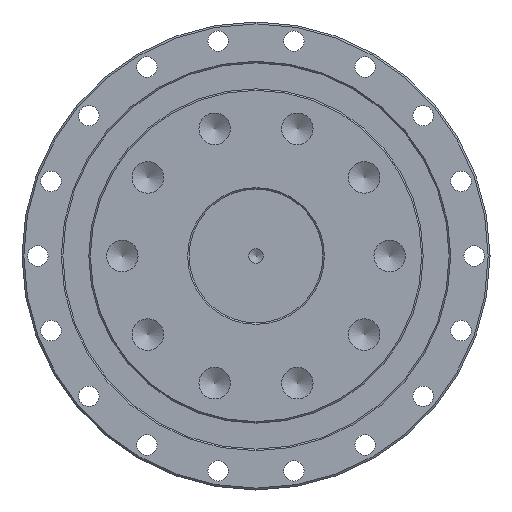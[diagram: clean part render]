
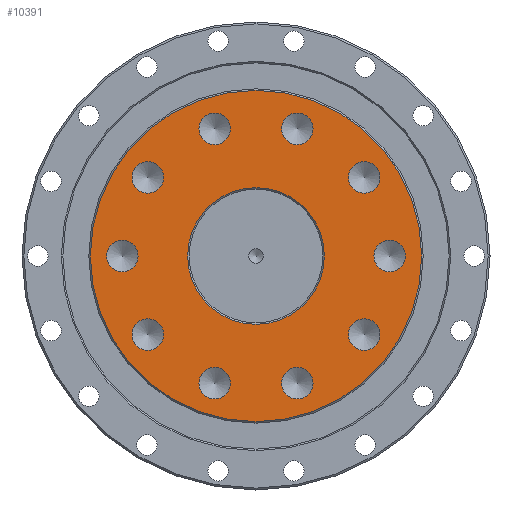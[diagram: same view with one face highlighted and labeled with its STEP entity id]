
A CAD part, left-side view. The second image highlights one B-rep face of the part: STEP entity #10391.
In plain terms, the highlighted planar face has unit normal (-1, 0, 0).
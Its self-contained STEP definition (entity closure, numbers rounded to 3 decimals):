
#67 = DIRECTION ( 'NONE',  ( 0., 0., -1. ) ) ;
#98 = DIRECTION ( 'NONE',  ( 0., 0., -1. ) ) ;
#206 = DIRECTION ( 'NONE',  ( -1., 0., 0. ) ) ;
#218 = CARTESIAN_POINT ( 'NONE',  ( 0., 11.125, 29.988 ) ) ;
#241 = CARTESIAN_POINT ( 'NONE',  ( 0., 0., 0. ) ) ;
#497 = CARTESIAN_POINT ( 'NONE',  ( 0., 0., -18.4 ) ) ;
#602 = DIRECTION ( 'NONE',  ( 0., 0., -1. ) ) ;
#603 = DIRECTION ( 'NONE',  ( -1., 0., 0. ) ) ;
#642 = CARTESIAN_POINT ( 'NONE',  ( 0., -29.125, 16.91 ) ) ;
#788 = EDGE_CURVE ( 'NONE', #10777, #10777, #11784, .T. ) ;
#984 = AXIS2_PLACEMENT_3D ( 'NONE', #1063, #8065, #2088 ) ;
#1063 = CARTESIAN_POINT ( 'NONE',  ( 0., -11.125, 34.238 ) ) ;
#1134 = ORIENTED_EDGE ( 'NONE', *, *, #10876, .F. ) ;
#1172 = AXIS2_PLACEMENT_3D ( 'NONE', #12642, #6625, #602 ) ;
#1328 = EDGE_LOOP ( 'NONE', ( #5053 ) ) ;
#1754 = CARTESIAN_POINT ( 'NONE',  ( 0., 36., 0. ) ) ;
#1770 = CARTESIAN_POINT ( 'NONE',  ( 0., 11.125, 34.238 ) ) ;
#1995 = CIRCLE ( 'NONE', #1172, 4.25 ) ;
#2009 = FACE_BOUND ( 'NONE', #10632, .T. ) ;
#2064 = ORIENTED_EDGE ( 'NONE', *, *, #11243, .F. ) ;
#2088 = DIRECTION ( 'NONE',  ( 0., 0., -1. ) ) ;
#2295 = FACE_BOUND ( 'NONE', #9712, .T. ) ;
#2579 = AXIS2_PLACEMENT_3D ( 'NONE', #3951, #10989, #4969 ) ;
#2580 = CARTESIAN_POINT ( 'NONE',  ( 0., 29.125, -25.41 ) ) ;
#2628 = FACE_BOUND ( 'NONE', #9121, .T. ) ;
#2754 = DIRECTION ( 'NONE',  ( 0., 0., -1. ) ) ;
#2770 = DIRECTION ( 'NONE',  ( 0., 0., -1. ) ) ;
#2904 = EDGE_CURVE ( 'NONE', #5272, #5272, #1995, .T. ) ;
#2971 = EDGE_CURVE ( 'NONE', #10272, #10272, #11915, .T. ) ;
#3467 = CARTESIAN_POINT ( 'NONE',  ( 0., 29.125, -21.16 ) ) ;
#3505 = VERTEX_POINT ( 'NONE', #642 ) ;
#3545 = ORIENTED_EDGE ( 'NONE', *, *, #2904, .F. ) ;
#3559 = EDGE_LOOP ( 'NONE', ( #4565 ) ) ;
#3604 = CIRCLE ( 'NONE', #984, 4.25 ) ;
#3701 = EDGE_CURVE ( 'NONE', #8370, #8370, #10562, .T. ) ;
#3951 = CARTESIAN_POINT ( 'NONE',  ( 0., 29.125, 21.16 ) ) ;
#4153 = EDGE_LOOP ( 'NONE', ( #1134 ) ) ;
#4321 = FACE_BOUND ( 'NONE', #8750, .T. ) ;
#4423 = CARTESIAN_POINT ( 'NONE',  ( 0., -11.125, 29.988 ) ) ;
#4453 = DIRECTION ( 'NONE',  ( 0., 0., -1. ) ) ;
#4467 = AXIS2_PLACEMENT_3D ( 'NONE', #1754, #8731, #2754 ) ;
#4565 = ORIENTED_EDGE ( 'NONE', *, *, #6891, .F. ) ;
#4570 = CARTESIAN_POINT ( 'NONE',  ( 0., 0., 0. ) ) ;
#4641 = CARTESIAN_POINT ( 'NONE',  ( 0., 29.125, 16.91 ) ) ;
#4665 = FACE_BOUND ( 'NONE', #3559, .T. ) ;
#4812 = AXIS2_PLACEMENT_3D ( 'NONE', #12133, #6107, #98 ) ;
#4969 = DIRECTION ( 'NONE',  ( 0., 0., -1. ) ) ;
#4989 = FACE_BOUND ( 'NONE', #7081, .T. ) ;
#5053 = ORIENTED_EDGE ( 'NONE', *, *, #11475, .F. ) ;
#5163 = DIRECTION ( 'NONE',  ( -1., 0., 0. ) ) ;
#5228 = ORIENTED_EDGE ( 'NONE', *, *, #7918, .F. ) ;
#5272 = VERTEX_POINT ( 'NONE', #5475 ) ;
#5327 = CIRCLE ( 'NONE', #5341, 4.25 ) ;
#5341 = AXIS2_PLACEMENT_3D ( 'NONE', #11176, #5163, #12198 ) ;
#5475 = CARTESIAN_POINT ( 'NONE',  ( 0., -11.125, -38.488 ) ) ;
#5587 = DIRECTION ( 'NONE',  ( 0., 0., -1. ) ) ;
#5732 = DIRECTION ( 'NONE',  ( 1., 0., 0. ) ) ;
#5913 = AXIS2_PLACEMENT_3D ( 'NONE', #11731, #5732, #12788 ) ;
#5968 = ORIENTED_EDGE ( 'NONE', *, *, #2971, .T. ) ;
#6065 = DIRECTION ( 'NONE',  ( -1., 0., 0. ) ) ;
#6107 = DIRECTION ( 'NONE',  ( -1., 0., 0. ) ) ;
#6509 = VERTEX_POINT ( 'NONE', #10608 ) ;
#6625 = DIRECTION ( 'NONE',  ( -1., 0., 0. ) ) ;
#6626 = CARTESIAN_POINT ( 'NONE',  ( 0., -29.125, 21.16 ) ) ;
#6891 = EDGE_CURVE ( 'NONE', #11697, #11697, #13000, .T. ) ;
#6940 = AXIS2_PLACEMENT_3D ( 'NONE', #3467, #10463, #4453 ) ;
#7033 = FACE_OUTER_BOUND ( 'NONE', #10583, .T. ) ;
#7081 = EDGE_LOOP ( 'NONE', ( #8256 ) ) ;
#7117 = EDGE_CURVE ( 'NONE', #8351, #8351, #10420, .T. ) ;
#7144 = VERTEX_POINT ( 'NONE', #9281 ) ;
#7230 = ORIENTED_EDGE ( 'NONE', *, *, #788, .T. ) ;
#7237 = DIRECTION ( 'NONE',  ( 0., 0., -1. ) ) ;
#7282 = EDGE_LOOP ( 'NONE', ( #3545 ) ) ;
#7325 = FACE_BOUND ( 'NONE', #1328, .T. ) ;
#7560 = CIRCLE ( 'NONE', #4467, 4.25 ) ;
#7597 = DIRECTION ( 'NONE',  ( 0., 0., -1. ) ) ;
#7635 = FACE_BOUND ( 'NONE', #4153, .T. ) ;
#7688 = CIRCLE ( 'NONE', #11153, 4.25 ) ;
#7918 = EDGE_CURVE ( 'NONE', #7144, #7144, #7560, .T. ) ;
#8065 = DIRECTION ( 'NONE',  ( -1., 0., 0. ) ) ;
#8194 = VERTEX_POINT ( 'NONE', #4641 ) ;
#8256 = ORIENTED_EDGE ( 'NONE', *, *, #7117, .F. ) ;
#8293 = CARTESIAN_POINT ( 'NONE',  ( 0., 0., -44.6 ) ) ;
#8351 = VERTEX_POINT ( 'NONE', #12276 ) ;
#8370 = VERTEX_POINT ( 'NONE', #2580 ) ;
#8573 = EDGE_LOOP ( 'NONE', ( #8595 ) ) ;
#8595 = ORIENTED_EDGE ( 'NONE', *, *, #10940, .F. ) ;
#8731 = DIRECTION ( 'NONE',  ( -1., 0., 0. ) ) ;
#8750 = EDGE_LOOP ( 'NONE', ( #5968 ) ) ;
#8761 = DIRECTION ( 'NONE',  ( -1., 0., 0. ) ) ;
#8763 = AXIS2_PLACEMENT_3D ( 'NONE', #241, #206, #7237 ) ;
#9038 = EDGE_CURVE ( 'NONE', #12317, #12317, #3604, .T. ) ;
#9121 = EDGE_LOOP ( 'NONE', ( #9837 ) ) ;
#9281 = CARTESIAN_POINT ( 'NONE',  ( 0., 36., -4.25 ) ) ;
#9601 = CARTESIAN_POINT ( 'NONE',  ( 0., -29.125, -25.41 ) ) ;
#9672 = FACE_BOUND ( 'NONE', #8573, .T. ) ;
#9712 = EDGE_LOOP ( 'NONE', ( #5228 ) ) ;
#9837 = ORIENTED_EDGE ( 'NONE', *, *, #3701, .F. ) ;
#9991 = FACE_BOUND ( 'NONE', #7282, .T. ) ;
#10272 = VERTEX_POINT ( 'NONE', #497 ) ;
#10342 = EDGE_LOOP ( 'NONE', ( #2064 ) ) ;
#10391 = ADVANCED_FACE ( 'NONE', ( #7635, #9991, #4989, #2628, #2295, #7325, #4665, #2009, #12367, #9672, #7033, #4321 ), #12259, .T. ) ;
#10420 = CIRCLE ( 'NONE', #4812, 4.25 ) ;
#10463 = DIRECTION ( 'NONE',  ( -1., 0., 0. ) ) ;
#10562 = CIRCLE ( 'NONE', #6940, 4.25 ) ;
#10583 = EDGE_LOOP ( 'NONE', ( #7230 ) ) ;
#10608 = CARTESIAN_POINT ( 'NONE',  ( 0., -36., -4.25 ) ) ;
#10632 = EDGE_LOOP ( 'NONE', ( #11189 ) ) ;
#10777 = VERTEX_POINT ( 'NONE', #8293 ) ;
#10844 = CIRCLE ( 'NONE', #2579, 4.25 ) ;
#10876 = EDGE_CURVE ( 'NONE', #11849, #11849, #11293, .T. ) ;
#10940 = EDGE_CURVE ( 'NONE', #6509, #6509, #5327, .T. ) ;
#10989 = DIRECTION ( 'NONE',  ( -1., 0., 0. ) ) ;
#11153 = AXIS2_PLACEMENT_3D ( 'NONE', #6626, #603, #7597 ) ;
#11176 = CARTESIAN_POINT ( 'NONE',  ( 0., -36., 0. ) ) ;
#11189 = ORIENTED_EDGE ( 'NONE', *, *, #9038, .F. ) ;
#11243 = EDGE_CURVE ( 'NONE', #3505, #3505, #7688, .T. ) ;
#11293 = CIRCLE ( 'NONE', #11656, 4.25 ) ;
#11331 = AXIS2_PLACEMENT_3D ( 'NONE', #4570, #11595, #5587 ) ;
#11358 = AXIS2_PLACEMENT_3D ( 'NONE', #1770, #8761, #2770 ) ;
#11475 = EDGE_CURVE ( 'NONE', #8194, #8194, #10844, .T. ) ;
#11595 = DIRECTION ( 'NONE',  ( -1., 0., 0. ) ) ;
#11656 = AXIS2_PLACEMENT_3D ( 'NONE', #12074, #6065, #67 ) ;
#11697 = VERTEX_POINT ( 'NONE', #218 ) ;
#11731 = CARTESIAN_POINT ( 'NONE',  ( 0., 0., 0. ) ) ;
#11784 = CIRCLE ( 'NONE', #11331, 44.6 ) ;
#11849 = VERTEX_POINT ( 'NONE', #9601 ) ;
#11915 = CIRCLE ( 'NONE', #5913, 18.4 ) ;
#12074 = CARTESIAN_POINT ( 'NONE',  ( 0., -29.125, -21.16 ) ) ;
#12133 = CARTESIAN_POINT ( 'NONE',  ( 0., 11.125, -34.238 ) ) ;
#12198 = DIRECTION ( 'NONE',  ( 0., 0., -1. ) ) ;
#12259 = PLANE ( 'NONE',  #8763 ) ;
#12276 = CARTESIAN_POINT ( 'NONE',  ( 0., 11.125, -38.488 ) ) ;
#12317 = VERTEX_POINT ( 'NONE', #4423 ) ;
#12367 = FACE_BOUND ( 'NONE', #10342, .T. ) ;
#12642 = CARTESIAN_POINT ( 'NONE',  ( 0., -11.125, -34.238 ) ) ;
#12788 = DIRECTION ( 'NONE',  ( 0., 0., -1. ) ) ;
#13000 = CIRCLE ( 'NONE', #11358, 4.25 ) ;
